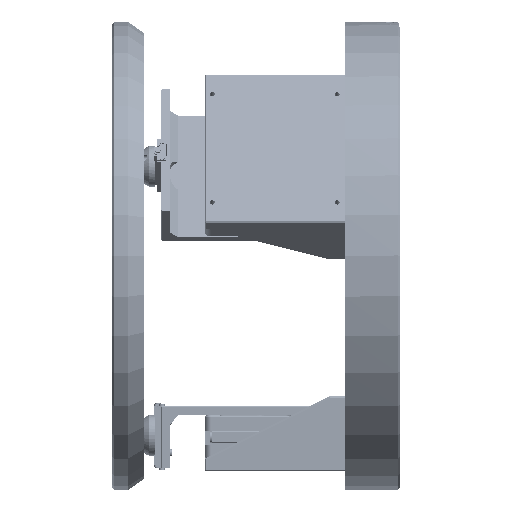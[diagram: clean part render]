
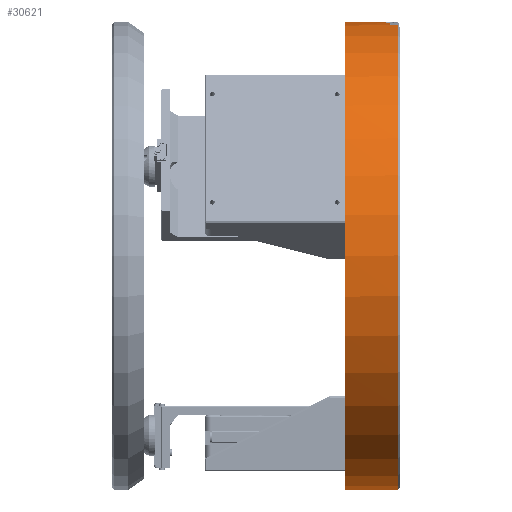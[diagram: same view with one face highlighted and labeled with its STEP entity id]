
A CAD part, left-side view. The second image highlights one B-rep face of the part: STEP entity #30621.
In plain terms, the highlighted cylindrical face has radius 75 mm (diameter 150 mm), a partial arc.
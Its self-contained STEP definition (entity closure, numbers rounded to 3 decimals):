
#929 = CARTESIAN_POINT ( 'NONE',  ( -7.613, 3.549, 74.613 ) ) ;
#1847 = CARTESIAN_POINT ( 'NONE',  ( 0., 17.5, -75. ) ) ;
#2941 = CARTESIAN_POINT ( 'NONE',  ( 0., 17.5, 75. ) ) ;
#4145 = DIRECTION ( 'NONE',  ( 0., 1., 0. ) ) ;
#4601 = CARTESIAN_POINT ( 'NONE',  ( 0., 3., 0. ) ) ;
#5873 = CARTESIAN_POINT ( 'NONE',  ( -6.447, 4.655, 74.723 ) ) ;
#7599 = CARTESIAN_POINT ( 'NONE',  ( -1.475, 3.852, 74.986 ) ) ;
#7895 = CIRCLE ( 'NONE', #21980, 75. ) ;
#8734 = AXIS2_PLACEMENT_3D ( 'NONE', #88464, #168928, #51727 ) ;
#11212 = ORIENTED_EDGE ( 'NONE', *, *, #128576, .T. ) ;
#11474 = VERTEX_POINT ( 'NONE', #2941 ) ;
#12452 = ORIENTED_EDGE ( 'NONE', *, *, #18445, .T. ) ;
#13180 = EDGE_CURVE ( 'NONE', #129368, #11474, #28753, .T. ) ;
#14011 = ORIENTED_EDGE ( 'NONE', *, *, #42440, .T. ) ;
#14066 = CARTESIAN_POINT ( 'NONE',  ( -7.7, 3., 74.604 ) ) ;
#14928 = CARTESIAN_POINT ( 'NONE',  ( -4.3, 3.225, 74.877 ) ) ;
#14946 = CIRCLE ( 'NONE', #59658, 75. ) ;
#15450 = ORIENTED_EDGE ( 'NONE', *, *, #109971, .T. ) ;
#16957 = B_SPLINE_CURVE_WITH_KNOTS ( 'NONE', 3,
 ( #87223, #140553, #20737, #74092, #127446, #47859, #7599, #74942, #128305, #115184, #48748, #155410, #171139, #78425 ),
 .UNSPECIFIED., .F., .F.,
 ( 4, 2, 2, 2, 2, 2, 4 ),
 ( 0., 0., 0.001, 0.001, 0.001, 0.002, 0.003 ),
 .UNSPECIFIED. ) ;
#18445 = EDGE_CURVE ( 'NONE', #162450, #148624, #7895, .T. ) ;
#19004 = CARTESIAN_POINT ( 'NONE',  ( -4.721, 4.125, 74.851 ) ) ;
#20737 = CARTESIAN_POINT ( 'NONE',  ( -1.689, 3.223, 74.981 ) ) ;
#21980 = AXIS2_PLACEMENT_3D ( 'NONE', #4601, #151523, #57992 ) ;
#23582 = CARTESIAN_POINT ( 'NONE',  ( -12.7, 3., 73.917 ) ) ;
#23683 = ORIENTED_EDGE ( 'NONE', *, *, #54483, .F. ) ;
#24499 = DIRECTION ( 'NONE',  ( 1., 0., 0. ) ) ;
#28664 = DIRECTION ( 'NONE',  ( 0., 0., -1. ) ) ;
#28753 = CIRCLE ( 'NONE', #42759, 75. ) ;
#30621 = ADVANCED_FACE ( 'NONE', ( #89316 ), #36827, .T. ) ;
#32997 = CARTESIAN_POINT ( 'NONE',  ( -6.224, 4.7, 74.742 ) ) ;
#33835 = CARTESIAN_POINT ( 'NONE',  ( -4.526, 3.855, 74.863 ) ) ;
#36827 = CYLINDRICAL_SURFACE ( 'NONE', #8734, 75. ) ;
#36841 = CARTESIAN_POINT ( 'NONE',  ( -7.527, 3.755, 74.621 ) ) ;
#41176 = CARTESIAN_POINT ( 'NONE',  ( -5.891, 4.7, 74.768 ) ) ;
#41810 = CARTESIAN_POINT ( 'NONE',  ( 0., 17.5, 75. ) ) ;
#42045 = CARTESIAN_POINT ( 'NONE',  ( -4.3, 3., 74.877 ) ) ;
#42440 = EDGE_CURVE ( 'NONE', #101735, #162450, #166157, .T. ) ;
#42759 = AXIS2_PLACEMENT_3D ( 'NONE', #101279, #165193, #153736 ) ;
#46510 = VERTEX_POINT ( 'NONE', #168495 ) ;
#47312 = CARTESIAN_POINT ( 'NONE',  ( 0., 0.5, -75. ) ) ;
#47859 = CARTESIAN_POINT ( 'NONE',  ( -1.528, 3.754, 74.984 ) ) ;
#48748 = CARTESIAN_POINT ( 'NONE',  ( -0.855, 4.486, 74.995 ) ) ;
#51727 = DIRECTION ( 'NONE',  ( 0., 0., -1. ) ) ;
#54483 = EDGE_CURVE ( 'NONE', #11474, #46510, #55811, .T. ) ;
#54821 = CARTESIAN_POINT ( 'NONE',  ( -4.3, 3., 74.877 ) ) ;
#55176 = CARTESIAN_POINT ( 'NONE',  ( -7.475, 3.852, 74.627 ) ) ;
#55811 = LINE ( 'NONE', #41810, #137893 ) ;
#57992 = DIRECTION ( 'NONE',  ( 1., 0., 0. ) ) ;
#59658 = AXIS2_PLACEMENT_3D ( 'NONE', #104828, #4145, #28664 ) ;
#61969 = VERTEX_POINT ( 'NONE', #94145 ) ;
#62130 = DIRECTION ( 'NONE',  ( 0., 1., 0. ) ) ;
#68282 = CARTESIAN_POINT ( 'NONE',  ( -5.455, 4.614, 74.801 ) ) ;
#69200 = DIRECTION ( 'NONE',  ( 0., -1., 0. ) ) ;
#70970 = ORIENTED_EDGE ( 'NONE', *, *, #148236, .T. ) ;
#74092 = CARTESIAN_POINT ( 'NONE',  ( -1.646, 3.44, 74.982 ) ) ;
#74942 = CARTESIAN_POINT ( 'NONE',  ( -1.352, 4.037, 74.988 ) ) ;
#75998 = DIRECTION ( 'NONE',  ( 0., 1., 0. ) ) ;
#77086 = CARTESIAN_POINT ( 'NONE',  ( -7.646, 3.441, 74.609 ) ) ;
#78425 = CARTESIAN_POINT ( 'NONE',  ( 0., 4.7, 75. ) ) ;
#78804 = EDGE_CURVE ( 'NONE', #118405, #101735, #14946, .T. ) ;
#80817 = VECTOR ( 'NONE', #69200, 1000. ) ;
#81396 = CARTESIAN_POINT ( 'NONE',  ( -6.855, 4.486, 74.686 ) ) ;
#83525 = ORIENTED_EDGE ( 'NONE', *, *, #84358, .T. ) ;
#84358 = EDGE_CURVE ( 'NONE', #61969, #46510, #16957, .T. ) ;
#84389 = VECTOR ( 'NONE', #75998, 1000. ) ;
#85754 = B_SPLINE_CURVE_WITH_KNOTS ( 'NONE', 3,
 ( #14066, #120764, #156671, #77086, #929, #36841, #55176, #147848, #96239, #127418, #81396, #5873, #32997, #41176, #86338, #134728, #68282, #162718, #135596, #161851, #109368, #19004, #108507, #33835, #87191, #113458, #14928, #42045 ),
 .UNSPECIFIED., .F., .F.,
 ( 4, 2, 2, 2, 2, 2, 2, 2, 2, 2, 2, 2, 2, 4 ),
 ( 0., 0., 0.001, 0.001, 0.001, 0.002, 0.003, 0.003, 0.003, 0.004, 0.004, 0.004, 0.005, 0.005 ),
 .UNSPECIFIED. ) ;
#86338 = CARTESIAN_POINT ( 'NONE',  ( -5.779, 4.689, 74.777 ) ) ;
#87191 = CARTESIAN_POINT ( 'NONE',  ( -4.473, 3.755, 74.867 ) ) ;
#87223 = CARTESIAN_POINT ( 'NONE',  ( -1.7, 3., 74.981 ) ) ;
#88464 = CARTESIAN_POINT ( 'NONE',  ( 0., 17.5, 0. ) ) ;
#89316 = FACE_OUTER_BOUND ( 'NONE', #168990, .T. ) ;
#94145 = CARTESIAN_POINT ( 'NONE',  ( -1.7, 3., 74.981 ) ) ;
#94854 = CIRCLE ( 'NONE', #117203, 75. ) ;
#95142 = DIRECTION ( 'NONE',  ( 0., -1., 0. ) ) ;
#96239 = CARTESIAN_POINT ( 'NONE',  ( -7.28, 4.125, 74.646 ) ) ;
#99120 = ORIENTED_EDGE ( 'NONE', *, *, #13180, .F. ) ;
#101279 = CARTESIAN_POINT ( 'NONE',  ( 0., 17.5, 0. ) ) ;
#101735 = VERTEX_POINT ( 'NONE', #150325 ) ;
#104828 = CARTESIAN_POINT ( 'NONE',  ( 0., 0.5, 0. ) ) ;
#108507 = CARTESIAN_POINT ( 'NONE',  ( -4.65, 4.039, 74.856 ) ) ;
#109368 = CARTESIAN_POINT ( 'NONE',  ( -4.88, 4.283, 74.841 ) ) ;
#109971 = EDGE_CURVE ( 'NONE', #129368, #118405, #121694, .T. ) ;
#113458 = CARTESIAN_POINT ( 'NONE',  ( -4.344, 3.446, 74.874 ) ) ;
#113675 = CARTESIAN_POINT ( 'NONE',  ( -12.7, 2.5, 73.917 ) ) ;
#115184 = CARTESIAN_POINT ( 'NONE',  ( -1.045, 4.359, 74.993 ) ) ;
#117203 = AXIS2_PLACEMENT_3D ( 'NONE', #155712, #62130, #24499 ) ;
#118405 = VERTEX_POINT ( 'NONE', #47312 ) ;
#120345 = CARTESIAN_POINT ( 'NONE',  ( -7.7, 3., 74.604 ) ) ;
#120764 = CARTESIAN_POINT ( 'NONE',  ( -7.7, 3.112, 74.604 ) ) ;
#121694 = LINE ( 'NONE', #1847, #80817 ) ;
#125619 = ORIENTED_EDGE ( 'NONE', *, *, #78804, .T. ) ;
#127418 = CARTESIAN_POINT ( 'NONE',  ( -7.045, 4.359, 74.669 ) ) ;
#127446 = CARTESIAN_POINT ( 'NONE',  ( -1.613, 3.548, 74.983 ) ) ;
#128305 = CARTESIAN_POINT ( 'NONE',  ( -1.28, 4.124, 74.989 ) ) ;
#128576 = EDGE_CURVE ( 'NONE', #146544, #61969, #94854, .T. ) ;
#129368 = VERTEX_POINT ( 'NONE', #168439 ) ;
#134728 = CARTESIAN_POINT ( 'NONE',  ( -5.561, 4.646, 74.794 ) ) ;
#135596 = CARTESIAN_POINT ( 'NONE',  ( -5.15, 4.476, 74.823 ) ) ;
#137893 = VECTOR ( 'NONE', #95142, 1000. ) ;
#140553 = CARTESIAN_POINT ( 'NONE',  ( -1.7, 3.112, 74.981 ) ) ;
#146544 = VERTEX_POINT ( 'NONE', #54821 ) ;
#147848 = CARTESIAN_POINT ( 'NONE',  ( -7.352, 4.037, 74.639 ) ) ;
#148236 = EDGE_CURVE ( 'NONE', #148624, #146544, #85754, .T. ) ;
#148624 = VERTEX_POINT ( 'NONE', #120345 ) ;
#150325 = CARTESIAN_POINT ( 'NONE',  ( -12.7, 0.5, 73.917 ) ) ;
#151523 = DIRECTION ( 'NONE',  ( 0., 1., 0. ) ) ;
#153736 = DIRECTION ( 'NONE',  ( 0., 0., 1. ) ) ;
#155410 = CARTESIAN_POINT ( 'NONE',  ( -0.446, 4.655, 74.999 ) ) ;
#155712 = CARTESIAN_POINT ( 'NONE',  ( 0., 3., 0. ) ) ;
#156671 = CARTESIAN_POINT ( 'NONE',  ( -7.689, 3.223, 74.605 ) ) ;
#161851 = CARTESIAN_POINT ( 'NONE',  ( -4.966, 4.354, 74.836 ) ) ;
#162450 = VERTEX_POINT ( 'NONE', #23582 ) ;
#162718 = CARTESIAN_POINT ( 'NONE',  ( -5.25, 4.529, 74.816 ) ) ;
#165193 = DIRECTION ( 'NONE',  ( 0., 1., 0. ) ) ;
#166157 = LINE ( 'NONE', #113675, #84389 ) ;
#168439 = CARTESIAN_POINT ( 'NONE',  ( 0., 17.5, -75. ) ) ;
#168495 = CARTESIAN_POINT ( 'NONE',  ( 0., 4.7, 75. ) ) ;
#168928 = DIRECTION ( 'NONE',  ( 0., -1., 0. ) ) ;
#168990 = EDGE_LOOP ( 'NONE', ( #23683, #99120, #15450, #125619, #14011, #12452, #70970, #11212, #83525 ) ) ;
#171139 = CARTESIAN_POINT ( 'NONE',  ( -0.222, 4.7, 75. ) ) ;
